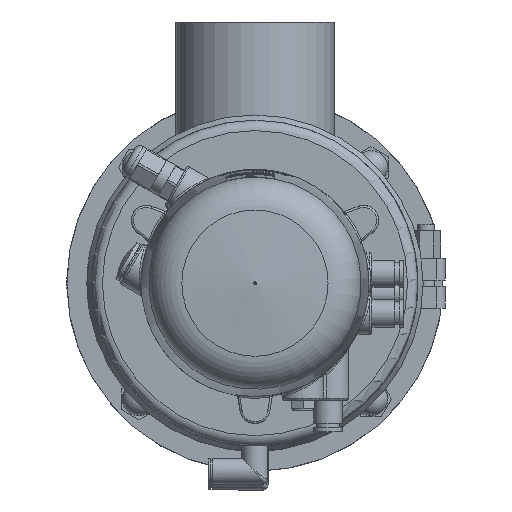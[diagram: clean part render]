
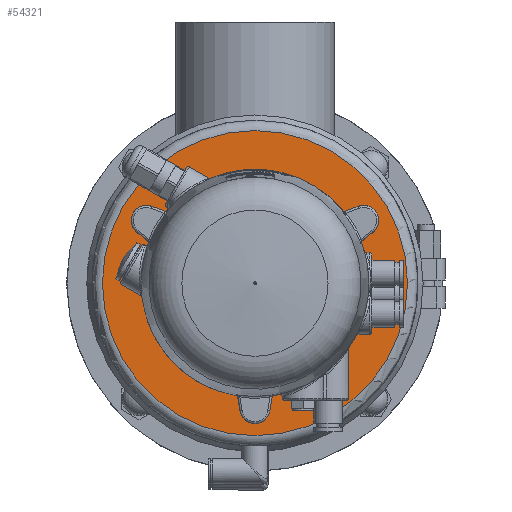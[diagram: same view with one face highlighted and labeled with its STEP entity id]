
A CAD part, front view. The second image highlights one B-rep face of the part: STEP entity #54321.
In plain terms, the highlighted planar face has unit normal (0, -1, 0) as drawn and (0, 1, 0) by its records, which use the part's own axes.
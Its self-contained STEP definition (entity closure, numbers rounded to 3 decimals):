
#615 = DIRECTION ( 'NONE',  ( 0., -1., 0. ) ) ;
#1771 = DIRECTION ( 'NONE',  ( 0., 1., 0. ) ) ;
#2967 = ORIENTED_EDGE ( 'NONE', *, *, #24364, .T. ) ;
#2985 = VERTEX_POINT ( 'NONE', #7546 ) ;
#4669 = CARTESIAN_POINT ( 'NONE',  ( 0., 263., -10. ) ) ;
#5165 = DIRECTION ( 'NONE',  ( 0., 0., -1. ) ) ;
#5459 = DIRECTION ( 'NONE',  ( 0., 1., 0. ) ) ;
#7546 = CARTESIAN_POINT ( 'NONE',  ( 0., 263., -15.4 ) ) ;
#10072 = EDGE_CURVE ( 'NONE', #14510, #14510, #50385, .T. ) ;
#11384 = DIRECTION ( 'NONE',  ( 0., -1., 0. ) ) ;
#11433 = EDGE_CURVE ( 'NONE', #58646, #58646, #19257, .T. ) ;
#11509 = AXIS2_PLACEMENT_3D ( 'NONE', #14643, #5459, #45346 ) ;
#11901 = DIRECTION ( 'NONE',  ( 0., 0., 1. ) ) ;
#12175 = EDGE_LOOP ( 'NONE', ( #62736 ) ) ;
#13858 = CARTESIAN_POINT ( 'NONE',  ( 0., 263., 19.6 ) ) ;
#14510 = VERTEX_POINT ( 'NONE', #4669 ) ;
#14643 = CARTESIAN_POINT ( 'NONE',  ( 0., 263., -17.5 ) ) ;
#14706 = CARTESIAN_POINT ( 'NONE',  ( -78., 263., 0. ) ) ;
#16714 = CIRCLE ( 'NONE', #11509, 2.1 ) ;
#19257 = CIRCLE ( 'NONE', #31749, 2.1 ) ;
#19977 = AXIS2_PLACEMENT_3D ( 'NONE', #14706, #615, #40740 ) ;
#24364 = EDGE_CURVE ( 'NONE', #51302, #51302, #48254, .T. ) ;
#26697 = DIRECTION ( 'NONE',  ( 0., 1., 0. ) ) ;
#31749 = AXIS2_PLACEMENT_3D ( 'NONE', #56347, #1771, #11901 ) ;
#34867 = CARTESIAN_POINT ( 'NONE',  ( 0., 263., 0. ) ) ;
#35529 = FACE_OUTER_BOUND ( 'NONE', #52797, .T. ) ;
#37826 = AXIS2_PLACEMENT_3D ( 'NONE', #34867, #11384, #5165 ) ;
#40740 = DIRECTION ( 'NONE',  ( 0., 0., -1. ) ) ;
#40879 = EDGE_LOOP ( 'NONE', ( #49256 ) ) ;
#45346 = DIRECTION ( 'NONE',  ( 0., 0., 1. ) ) ;
#45528 = EDGE_LOOP ( 'NONE', ( #58011 ) ) ;
#46409 = EDGE_CURVE ( 'NONE', #2985, #2985, #16714, .T. ) ;
#48254 = CIRCLE ( 'NONE', #57649, 73. ) ;
#49256 = ORIENTED_EDGE ( 'NONE', *, *, #10072, .T. ) ;
#50295 = FACE_BOUND ( 'NONE', #45528, .T. ) ;
#50385 = CIRCLE ( 'NONE', #37826, 10. ) ;
#50632 = FACE_BOUND ( 'NONE', #12175, .T. ) ;
#50958 = PLANE ( 'NONE',  #19977 ) ;
#51302 = VERTEX_POINT ( 'NONE', #56504 ) ;
#52797 = EDGE_LOOP ( 'NONE', ( #2967 ) ) ;
#54321 = ADVANCED_FACE ( 'NONE', ( #50295, #50632, #35529, #59828 ), #50958, .F. ) ;
#55829 = CARTESIAN_POINT ( 'NONE',  ( 0., 263., 0. ) ) ;
#56347 = CARTESIAN_POINT ( 'NONE',  ( 0., 263., 17.5 ) ) ;
#56504 = CARTESIAN_POINT ( 'NONE',  ( 0., 263., -73. ) ) ;
#57649 = AXIS2_PLACEMENT_3D ( 'NONE', #55829, #26697, #61745 ) ;
#58011 = ORIENTED_EDGE ( 'NONE', *, *, #46409, .F. ) ;
#58646 = VERTEX_POINT ( 'NONE', #13858 ) ;
#59828 = FACE_BOUND ( 'NONE', #40879, .T. ) ;
#61745 = DIRECTION ( 'NONE',  ( 0., 0., -1. ) ) ;
#62736 = ORIENTED_EDGE ( 'NONE', *, *, #11433, .F. ) ;
